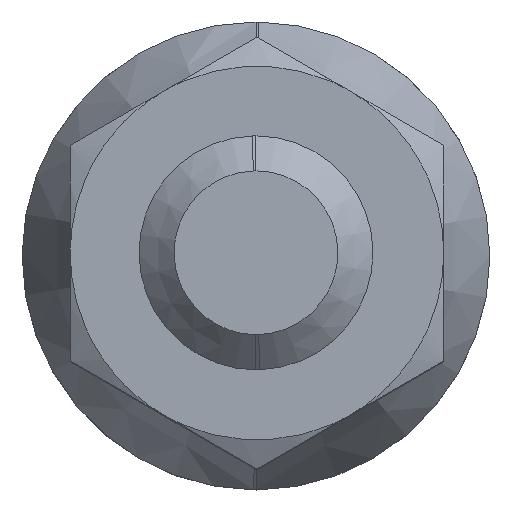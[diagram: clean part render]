
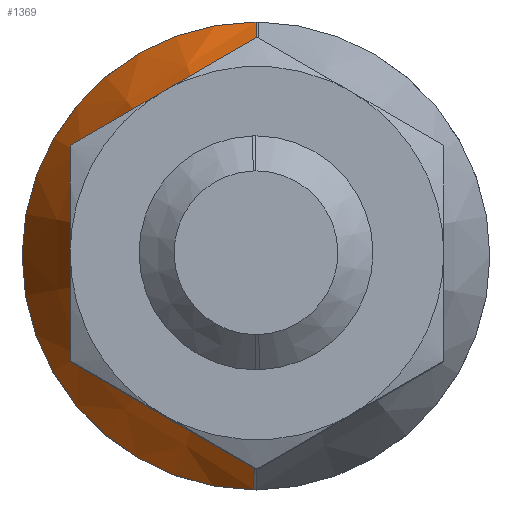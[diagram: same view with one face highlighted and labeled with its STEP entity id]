
A CAD part, top view. The second image highlights one B-rep face of the part: STEP entity #1369.
In plain terms, the highlighted conical face has half-angle 26.105 degrees and reference radius 4.743 mm.
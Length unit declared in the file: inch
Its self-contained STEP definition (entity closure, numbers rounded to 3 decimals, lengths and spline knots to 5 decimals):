
#789=EDGE_CURVE('',#1817,#1145,#2245,.T.);
#869=VERTEX_POINT('',#2329);
#949=EDGE_CURVE('',#869,#1145,#2419,.T.);
#1145=VERTEX_POINT('',#2630);
#1305=EDGE_CURVE('',#1403,#1817,#2799,.T.);
#1369=ADVANCED_FACE('',(#2865),#2866,.T.);
#1399=EDGE_CURVE('',#1403,#1633,#2898,.T.);
#1403=VERTEX_POINT('',#2902);
#1633=VERTEX_POINT('',#3149);
#1817=VERTEX_POINT('',#3337);
#1879=EDGE_CURVE('',#1633,#869,#3406,.T.);
#2245=LINE('',#3804,#3805);
#2329=CARTESIAN_POINT('',(0.07457,-0.18667,0.40712));
#2419=CIRCLE('',#4145,0.18672);
#2630=CARTESIAN_POINT('',(0.07703,-0.18671,0.40712));
#2799=CIRCLE('',#4801,0.31496);
#2865=FACE_OUTER_BOUND('',#4910,.T.);
#2866=CONICAL_SURFACE('',#4911,0.18672,0.456);
#2898=LINE('',#4958,#4959);
#2902=CARTESIAN_POINT('',(0.07874,0.31496,0.1454));
#3149=CARTESIAN_POINT('',(0.07874,0.18672,0.40712));
#3337=CARTESIAN_POINT('',(0.07585,-0.31495,0.1454));
#3406=CIRCLE('',#5785,0.18672);
#3804=CARTESIAN_POINT('',(0.07703,-0.18671,0.40712));
#3805=VECTOR('',#6303,1.0);
#4145=AXIS2_PLACEMENT_3D('',#6518,#6519,#6520);
#4801=AXIS2_PLACEMENT_3D('',#6952,#6953,#6954);
#4910=EDGE_LOOP('',(#7001,#7002,#7003,#7004,#7005));
#4911=AXIS2_PLACEMENT_3D('',#7006,#7007,#7008);
#4958=CARTESIAN_POINT('',(0.07874,0.25084,0.27626));
#4959=VECTOR('',#7044,0.74942);
#5785=AXIS2_PLACEMENT_3D('',#7521,#7522,#7523);
#6303=DIRECTION('',(0.004,0.44,0.898));
#6518=CARTESIAN_POINT('',(0.07874,0.,0.40712));
#6519=DIRECTION('',(0.0,-0.0,1.0));
#6520=DIRECTION('',(0.,1.0,0.0));
#6952=CARTESIAN_POINT('',(0.07874,0.,0.1454));
#6953=DIRECTION('',(0.,0.,1.0));
#6954=DIRECTION('',(0.,1.0,0.));
#7001=ORIENTED_EDGE('',*,*,#789,.T.);
#7002=ORIENTED_EDGE('',*,*,#949,.F.);
#7003=ORIENTED_EDGE('',*,*,#1879,.F.);
#7004=ORIENTED_EDGE('',*,*,#1399,.F.);
#7005=ORIENTED_EDGE('',*,*,#1305,.T.);
#7006=CARTESIAN_POINT('',(0.07874,0.,0.40712));
#7007=DIRECTION('',(0.,0.,-1.0));
#7008=DIRECTION('',(0.009,1.,0.));
#7044=DIRECTION('',(0.0,-0.44,0.898));
#7521=CARTESIAN_POINT('',(0.07874,0.,0.40712));
#7522=DIRECTION('',(0.0,-0.0,1.0));
#7523=DIRECTION('',(0.,1.0,0.0));
